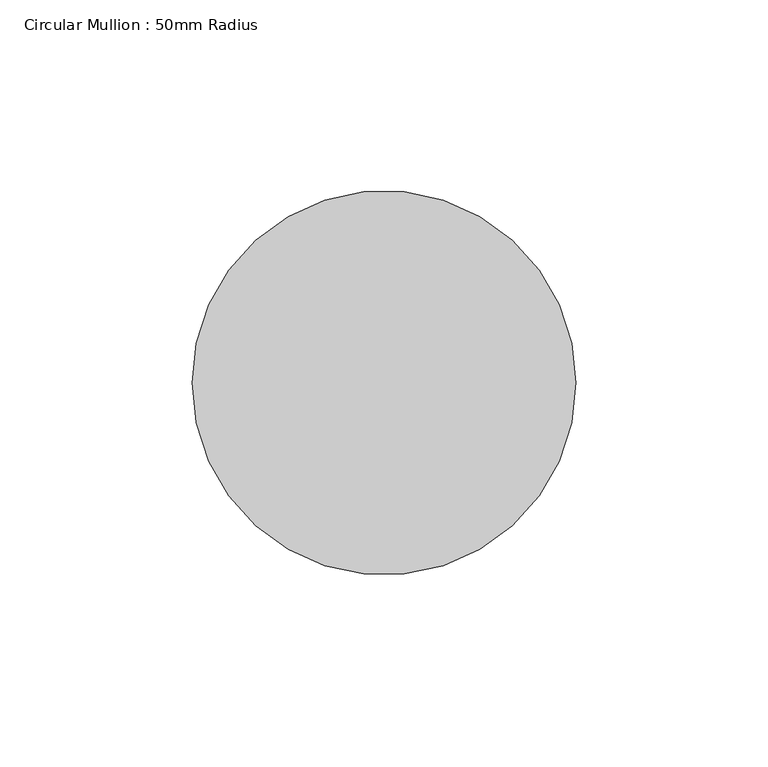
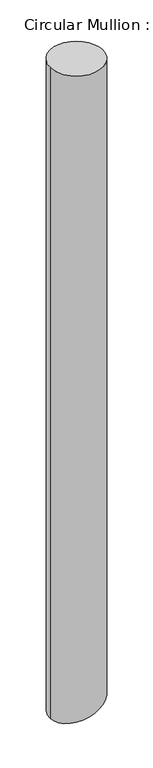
"""IFC4 building model written with IfcOpenShell, lengths in millimetres: member geometry, Circular Mullion : 50mm Radius."""

from ifc_helpers import new_model, si_unit, frame, origin, place, context, project, spatial, circle_curve, ellipse_curve, source, transform, mapped, element, save
from ifc_brep_helpers import plane_surface, cylinder_surface, advanced_brep


def circular_mullion_50mm_radius_fc560f1a(model_context):
    return source(origin(), model_context, "Body", "AdvancedBrep", [
        advanced_brep(
        [(-100.0, 0.0, 0.0), (0.0, 0.0, 0.0), (0.0, 0.0, -1271.2125833), (-100.0, 0.0, -1306.6244405)],
        [
            (0, 1, circle_curve(frame((-50.0, 0.0, 0.0), z_axis=(0.0, 0.0, -1.0), x_axis=(1.0, 0.0, 0.0)), 50.0)),
            (1, 2),
            (2, 3, ellipse_curve(frame((-50.0, 0.0, -1288.9185119), z_axis=(-0.3338068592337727, 0.0, 0.9426414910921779), x_axis=(0.942641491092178, 0.0, 0.3338068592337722)), 53.042435, 50.0)),
            (3, 0),
            (1, 0, circle_curve(frame((-50.0, 0.0, 0.0), z_axis=(0.0, 0.0, -1.0), x_axis=(1.0, 0.0, 0.0)), 50.0)),
            (3, 2, ellipse_curve(frame((-50.0, 0.0, -1288.9185119), z_axis=(-0.3338068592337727, 0.0, 0.9426414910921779), x_axis=(0.942641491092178, 0.0, 0.3338068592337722)), 53.042435, 50.0)),
        ],
        [
            cylinder_surface(frame((-50.0, 0.0, 0.0), z_axis=(0.0, 0.0, 1.0), x_axis=(1.0, 0.0, 0.0)), 50.0),
            plane_surface(frame((-304.8, 0.0, 0.0), z_axis=(0.0, 0.0, 1.0), x_axis=(0.0, 1.0, 0.0))),
            plane_surface(frame((0.0, 304.8, -1271.2125833), z_axis=(0.3338068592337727, 0.0, -0.9426414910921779), x_axis=(0.9426414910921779, 0.0, 0.3338068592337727))),
        ],
        [
            (0, [[1, 2, 3, 4]]),
            (0, [[5, -4, 6, -2]]),
            (1, [[-1, -5]]),
            (2, [[-6, -3]]),
        ],
    ),
    ])


if __name__ == "__main__":
    model = new_model("IFC4")
    model_context = context("Model", 3, world=origin())
    ifc_project = project(units=[si_unit("LENGTHUNIT", "METRE", prefix="MILLI")], contexts=[model_context])
    site = spatial("IfcSite", under=ifc_project)
    building = spatial("IfcBuilding", under=site)
    placement = place(None, origin())
    circular_mullion_50mm_radius_shape = circular_mullion_50mm_radius_fc560f1a(model_context)
    element("IfcMember", 1, ObjectType="Circular Mullion : 50mm Radius", at=placement, inside=building, context=model_context, shape_type="MappedRepresentation", body=[
        mapped(circular_mullion_50mm_radius_shape, transform((0.0, 0.0, 0.0), x_axis=(1.0, 0.0, 0.0), y_axis=(0.0, 1.0, 0.0), z_axis=(0.0, 0.0, 1.0))),
    ])
    save(model, "model.ifc")
